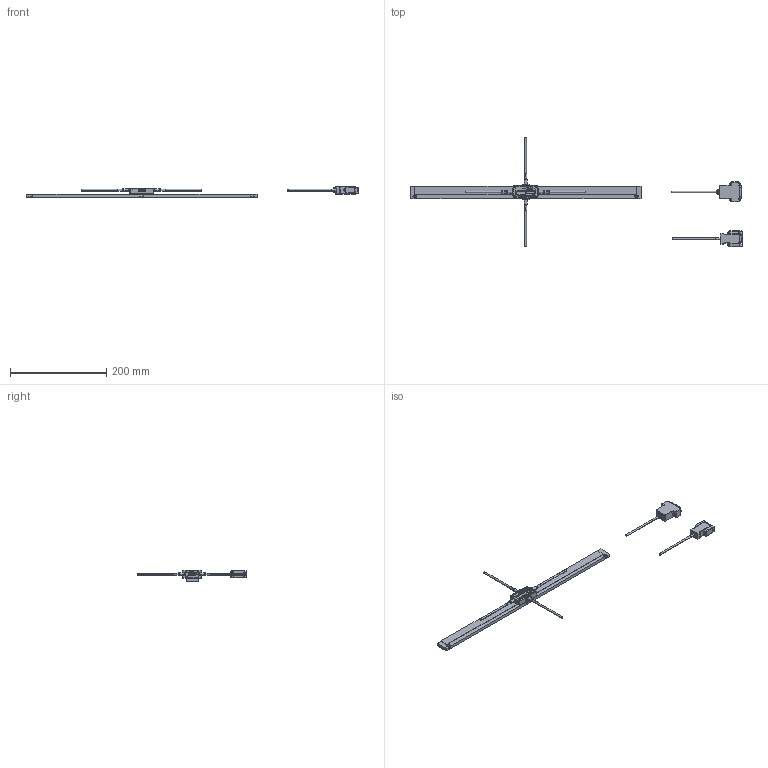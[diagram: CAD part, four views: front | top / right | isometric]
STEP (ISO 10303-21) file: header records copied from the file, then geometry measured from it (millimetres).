
FILE_DESCRIPTION(('Creo Elements/Direct Modeling STEP Export'),'2;1');
FILE_NAME('ABS_ST700-400A.stp','2018-02-14T11:06:08',(''),(''),'Creo Elements/Direct Modeling STEP processor for AP214 (Solid Model)','Creo Elements/Direct Modeling 18.1B 29-Sep-2012 (C) Parametric Technology GmbH','');
FILE_SCHEMA(('AUTOMOTIVE_DESIGN { 1 0 10303 214 1 1 1 1 }'));
Length unit declared in the file: millimetre
Products named in the file (10): Scale_400; Connector（Dsub15pin）; Connector（Dsub9pin）; Connector; Detector_Head_D; Detector_Head_L; Detector_Head_R; Detector_Head_U; Detector_Head; ABS_ST700-400A
Assembly tree (9 placements, depth 3):
  ABS_ST700-400A
    Detector_Head
      Detector_Head_U
      Detector_Head_R
      Detector_Head_L
      Detector_Head_D
    Connector
      Connector（Dsub9pin）
      Connector（Dsub15pin）
    Scale_400
Bounding box: 689.3 x 227.7 x 23.3 mm (x, y, z)
Volume: 192051.9 mm3; surface area: 69772.5 mm2
Topology: 7 solids, 7 shells, 6644 faces, 18206 edges, 12004 vertices
Faces by surface type: plane 5238, cylinder 1155, cone 125, torus 58, extrusion 36, bspline 24, revolution 8
Entity records: 213050 total; most frequent: CARTESIAN_POINT 44146, ORIENTED_EDGE 36340, DIRECTION 32785, EDGE_CURVE 18170, VECTOR 15423, LINE 15407, VERTEX_POINT 12004, AXIS2_PLACEMENT_3D 8675
